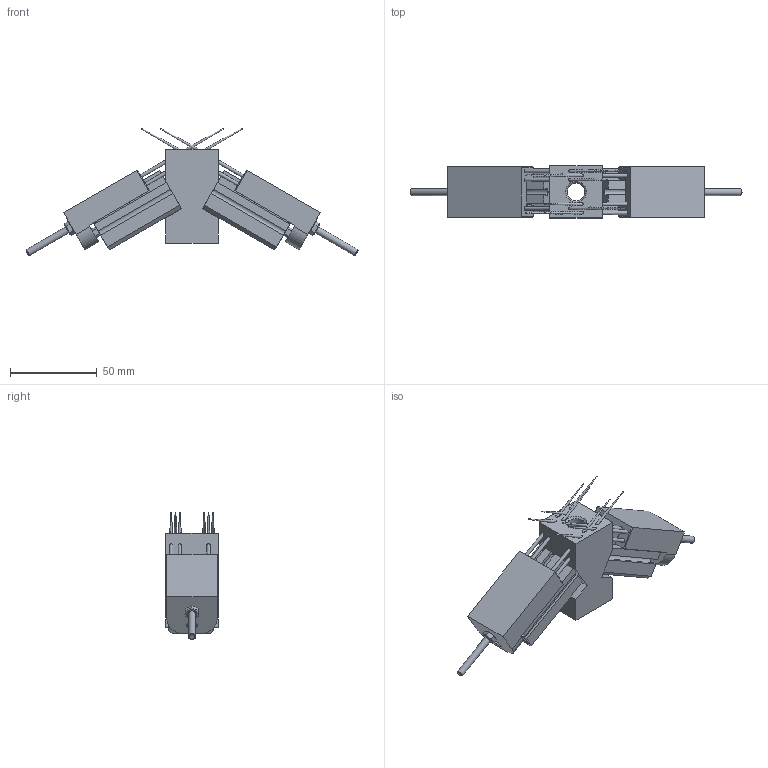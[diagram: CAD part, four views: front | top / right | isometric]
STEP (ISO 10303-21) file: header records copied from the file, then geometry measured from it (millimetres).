
FILE_DESCRIPTION((''),'2;1');
FILE_NAME('C:\Users\User\Pictures\Nadelgreifer\NHK\Arbeitsbereich\NHKa-12.stp','2015-10-08T12:06:49',('User'),(''),'Autodesk Inventor 2013','Autodesk Inventor 2013','');
FILE_SCHEMA(('AUTOMOTIVE_DESIGN { 1 0 10303 214 1 1 1 1 }'));
Length unit declared in the file: millimetre
Products named in the file (1): NHKa-12
Bounding box: 191.01 x 30 x 73.19 mm (x, y, z)
Volume: 121602.7 mm3; surface area: 39735 mm2
Topology: 1 solids, 1 shells, 294 faces, 754 edges, 488 vertices
Faces by surface type: plane 166, cylinder 77, cone 27, torus 14, bspline 10
Full cylindrical faces by diameter (mm): 2 x10, 3 x4, 4 x4, 4.134 x6, 4.2 x2, 5.5 x6, 6 x4, 6.5 x4, 8.1 x2, 9 x2, 10 x1, 13 x4, 13.6 x2
Entity records: 8678 total; most frequent: CARTESIAN_POINT 1765, DIRECTION 1378, ORIENTED_EDGE 1218, EDGE_CURVE 609, AXIS2_PLACEMENT_3D 520, EDGE_LOOP 446, VERTEX_POINT 443, VECTOR 338
